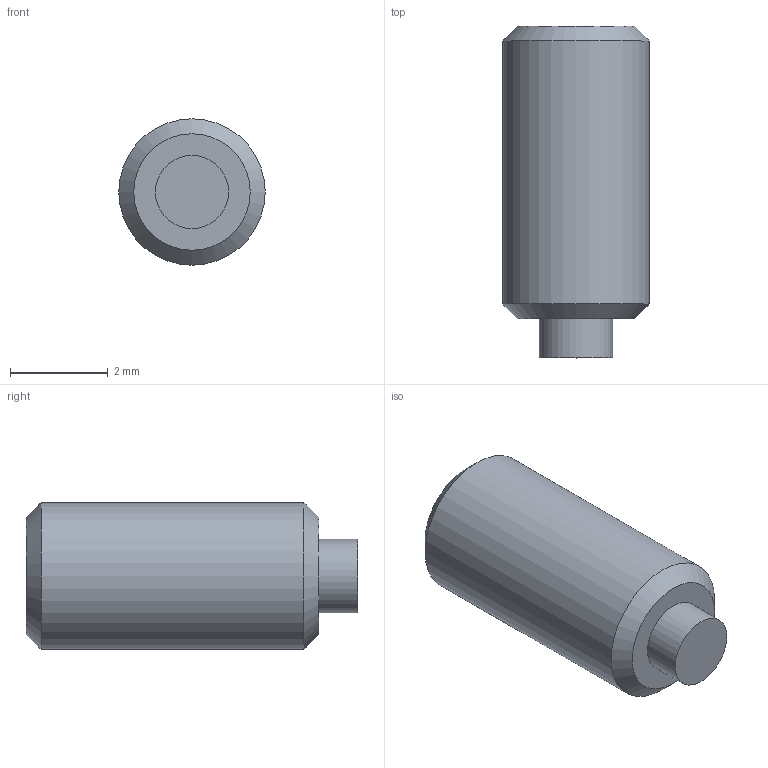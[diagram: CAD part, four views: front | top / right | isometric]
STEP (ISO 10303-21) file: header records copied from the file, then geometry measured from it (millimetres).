
FILE_DESCRIPTION( ( 'STEP AP203' ), '1' );
FILE_NAME( 'C:/Temp/Ganter_Step_05_03_2020/data/3_2/gn913_3/Grub screw GN 913.3-M3-6-KU.stp', '2020-03-13T05:35:32', ( 'License CC BY-ND 4.0' ), ( 'CADENAS' ), ' ', 'PARTsolutions', ' ' );
FILE_SCHEMA( ( 'CONFIG_CONTROL_DESIGN' ) );
Length unit declared in the file: millimetre
Products named in the file (1): _Grub screw GN 913.3-M3-6-KU
Bounding box: 3 x 6.8 x 3 mm (x, y, z)
Volume: 40.1 mm3; surface area: 78.6 mm2
Topology: 1 solids, 1 shells, 14 faces, 28 edges, 18 vertices
Faces by surface type: plane 10, cylinder 2, cone 2
Full cylindrical faces by diameter (mm): 1.5 x1, 3 x1
Entity records: 386 total; most frequent: DIRECTION 60, CARTESIAN_POINT 57, ORIENTED_EDGE 48, EDGE_CURVE 24, AXIS2_PLACEMENT_3D 21, EDGE_LOOP 20, VERTEX_POINT 18, LINE 18
